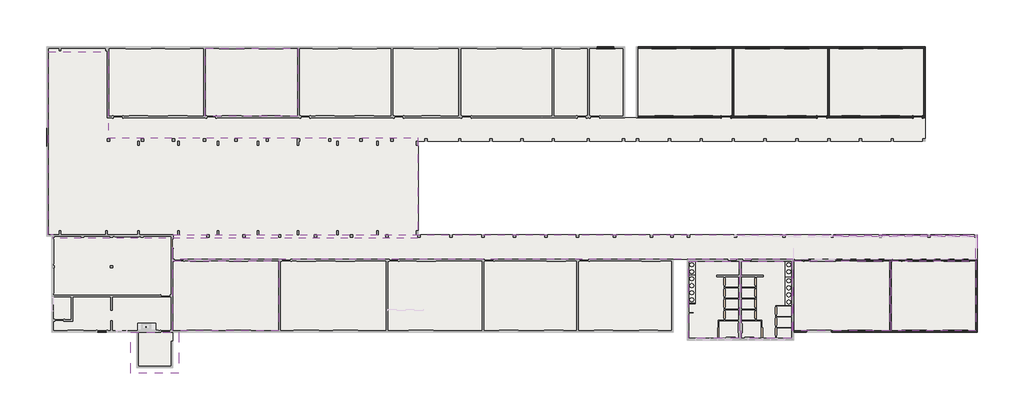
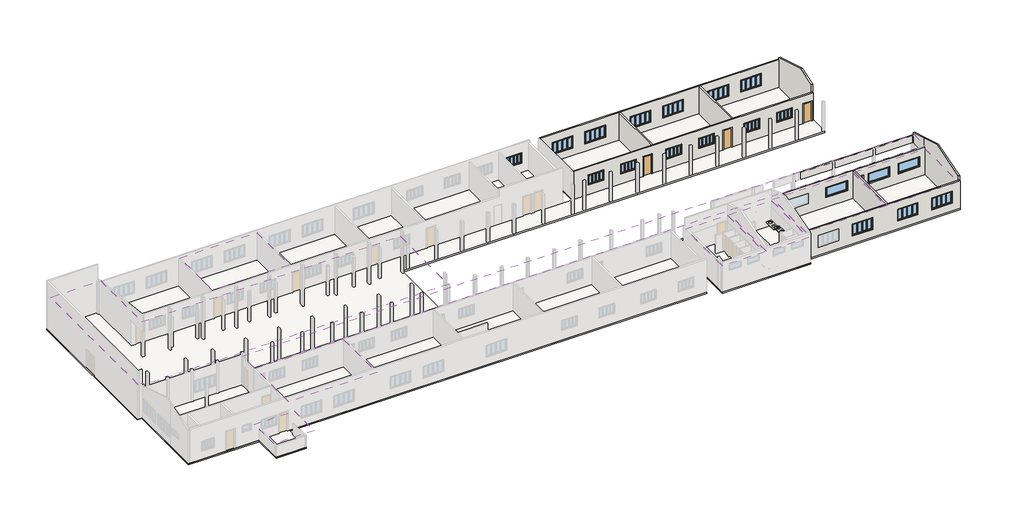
# One storey, part 4 of 5: 19 windows, 13 walls, 7 coverings, 6 slabs, 4 doors, 2 roofs.
"""IFC4 building model written with IfcOpenShell, lengths in millimetres."""

from ifc_helpers import new_model, si_unit, point, frame, frame_2d, origin, origin_with_axes, place, context, project, spatial, polyline, circle_curve, trimmed, segment, composite_curve, outline, extrude, faceted_brep, transform, mapped, element, save
from components import m_single_flush_0800_x_2100mm_0fb022da, casement_quad_w_trim_1500_x_1000_mm_8fcab8cd, casement_quad_w_trim_2000_x_1000_mm_c4cc244c, casement_quad_w_trim_2000_x_1000_mm_fe9ded81, transom_with_trim_2100_x_100mm_c4035aed

model = new_model("IFC4")

# Units and contexts
model_context = context("Model", 3, world=origin())
ifc_project = project(units=[si_unit("LENGTHUNIT", "METRE", prefix="MILLI")], contexts=[model_context])

# Site, building, storey
site = spatial("IfcSite", under=ifc_project)
building = spatial("IfcBuilding", under=site)
storey = spatial("IfcBuildingStorey", under=building, Name="Planta de implantação", Elevation=0.0)

# Coverings
placement = place(None, origin())
element("IfcCovering", 1, ObjectType="Plain", at=placement, inside=storey, context=model_context, shape_type="SweptSolid", body=[
    extrude(outline(polyline([(28214.7647365, -22768.3222718), (28214.7647365, -29368.3222718), (23909.7647365, -29368.3222718), (23909.7647365, -22768.3222718), (28214.7647365, -22768.3222718)])), frame((0.0, 0.0, 2700.0), z_axis=(0.0, 0.0, 1.0), x_axis=(1.0, 0.0, 0.0)), (0.0, 0.0, 1.0), 57.0),
])
element("IfcCovering", 2, ObjectType="Plain", at=placement, inside=storey, context=model_context, shape_type="SweptSolid", body=[
    extrude(outline(polyline([(23709.7647365, -29368.3222718), (19409.7647365, -29368.3222718), (19409.7647365, -22768.3222718), (23709.7647365, -22768.3222718), (23709.7647365, -29368.3222718)])), frame((0.0, 0.0, 2700.0), z_axis=(0.0, 0.0, 1.0), x_axis=(1.0, 0.0, 0.0)), (0.0, 0.0, 1.0), 57.0),
])
element("IfcCovering", 3, ObjectType="Plain", at=placement, inside=storey, context=model_context, shape_type="SweptSolid", body=[
    extrude(outline(polyline([(36564.7647365, -28698.3222718), (28354.7647365, -28698.3222718), (28354.7647365, -22748.3222718), (36564.7647365, -22748.3222718), (36564.7647365, -28698.3222718)])), frame((0.0, 0.0, 2800.0), z_axis=(0.0, 0.0, 1.0), x_axis=(1.0, 0.0, 0.0)), (0.0, 0.0, 1.0), 57.0),
])
element("IfcCovering", 4, ObjectType="Plain", at=placement, inside=storey, context=model_context, shape_type="SweptSolid", body=[
    extrude(outline(polyline([(43944.7647365, -22748.3222718), (43944.7647365, -28698.3222718), (36694.7647365, -28698.3222718), (36694.7647365, -22748.3222718), (43944.7647365, -22748.3222718)])), frame((0.0, 0.0, 2800.0), z_axis=(0.0, 0.0, 1.0), x_axis=(1.0, 0.0, 0.0)), (0.0, 0.0, 1.0), 57.0),
])
element("IfcCovering", 5, ObjectType="Plain", at=placement, inside=storey, context=model_context, shape_type="SweptSolid", body=[
    extrude(outline(polyline([(-21870.2352635, -10388.3222718), (-21870.2352635, -4588.3222718), (-13970.2352635, -4588.3222718), (-13970.2352635, -10388.3222718), (-21870.2352635, -10388.3222718)])), frame((0.0, 0.0, 3000.0), z_axis=(0.0, 0.0, 1.0), x_axis=(1.0, 0.0, 0.0)), (0.0, 0.0, 1.0), 57.0),
])
element("IfcCovering", 6, ObjectType="Plain", at=placement, inside=storey, context=model_context, shape_type="SweptSolid", body=[
    extrude(outline(polyline([(-15590.2352635, -22748.3222718), (-15590.2352635, -28698.3222718), (-24640.2352635, -28698.3222718), (-24640.2352635, -22748.3222718), (-15590.2352635, -22748.3222718)])), frame((0.0, 0.0, 3000.0), z_axis=(0.0, 0.0, 1.0), x_axis=(1.0, 0.0, 0.0)), (0.0, 0.0, 1.0), 57.0),
])
element("IfcCovering", 7, ObjectType="Plain", at=placement, inside=storey, context=model_context, shape_type="SweptSolid", body=[
    extrude(outline(polyline([(-24640.2352635, -20518.3222718), (44074.7647365, -20518.3222718), (44074.7647365, -22618.3222718), (-24640.2352635, -22618.3222718), (-24640.2352635, -20518.3222718)])), frame((0.0, 0.0, 3000.0), z_axis=(0.0, 0.0, 1.0), x_axis=(1.0, 0.0, 0.0)), (0.0, 0.0, 1.0), 57.0),
])

# Doors
m_single_flush_0800_x_2100mm_shape = m_single_flush_0800_x_2100mm_0fb022da(model_context)
element("IfcDoor", 8, ObjectType="M_Single-Flush : 0800 x 2100mm", at=placement, inside=storey, context=model_context, shape_type="MappedRepresentation", body=[
    mapped(m_single_flush_0800_x_2100mm_shape, transform((22609.7647365, -10453.3222718, 0.0), x_axis=(1.0, 0.0, 0.0), y_axis=(0.0, 1.0, 0.0), z_axis=(0.0, 0.0, 1.0))),
])
element("IfcDoor", 9, ObjectType="M_Single-Flush : 0800 x 2100mm", at=placement, inside=storey, context=model_context, shape_type="MappedRepresentation", body=[
    mapped(m_single_flush_0800_x_2100mm_shape, transform((30789.7647365, -10453.3222718, 0.0), x_axis=(1.0, 0.0, 0.0), y_axis=(0.0, 1.0, 0.0), z_axis=(0.0, 0.0, 1.0))),
])
element("IfcDoor", 10, ObjectType="M_Single-Flush : 0800 x 2100mm", at=placement, inside=storey, context=model_context, shape_type="MappedRepresentation", body=[
    mapped(m_single_flush_0800_x_2100mm_shape, transform((38969.7647365, -10453.3222718, 0.0), x_axis=(1.0, 0.0, 0.0), y_axis=(0.0, 1.0, 0.0), z_axis=(0.0, 0.0, 1.0))),
])
element("IfcDoor", 11, ObjectType="M_Single-Flush : 0800 x 2100mm", at=placement, inside=storey, context=model_context, shape_type="MappedRepresentation", body=[
    mapped(m_single_flush_0800_x_2100mm_shape, transform((37184.7647365, -22683.3222718, 0.0), x_axis=(-1.0, 0.0, 0.0), y_axis=(0.0, -1.0, 0.0), z_axis=(0.0, 0.0, 1.0))),
])

# Roofs
element("IfcRoof", 12, ObjectType="Generic - 125mm", at=placement, inside=storey, context=model_context, shape_type="SweptSolid", body=[
    extrude(outline(polyline([(-32358.3222718, 2043.2275334), (-28828.3222718, 3102.2275334), (-28828.3222718, 2971.723702), (-32358.3222718, 1912.723702), (-32358.3222718, 2043.2275334)])), frame((-28250.2352635, 0.0, 0.0), z_axis=(1.0, 0.0, 0.0), x_axis=(0.0, 1.0, 0.0)), (0.0, 0.0, 1.0), 4110.0),
])
element("IfcRoof", 13, ObjectType="Generic - 125mm", at=placement, inside=storey, context=model_context, shape_type="Brep", body=[
    faceted_brep([(-35310.2352635, -16518.3222718, 5016.0), (-35310.2352635, -4888.3222718, 3620.4), (-30160.2352635, -4888.3222718, 3620.4), (-30160.2352635, -12218.3222718, 4500.0), (-3718.5685969, -12218.3222718, 4500.0), (-3718.5685969, -16518.3222718, 5016.0), (-34850.2352635, -20518.3222718, 4536.0), (-35310.2352635, -20518.3222718, 4536.0), (-3718.5685969, -20818.3222718, 4500.0), (-34850.2352635, -20818.3222718, 4500.0), (-35310.2352635, -4888.3222718, 3746.2967831), (-35310.2352635, -16518.3222718, 5141.8967831), (-3718.5685969, -16518.3222718, 5141.8967831), (-3718.5685969, -12218.3222718, 4625.8967831), (-30160.2352635, -12218.3222718, 4625.8967831), (-30160.2352635, -4888.3222718, 3746.2967831), (-35310.2352635, -20518.3222718, 4661.8967831), (-34850.2352635, -20518.3222718, 4661.8967831), (-34850.2352635, -20818.3222718, 4625.8967831), (-3718.5685969, -20818.3222718, 4625.8967831)], [[[0, 1, 2, 3, 4, 5]], [[6, 7, 0, 5, 8, 9]], [[10, 11, 12, 13, 14, 15]], [[16, 17, 18, 19, 12, 11]], [[8, 19, 18, 9]], [[3, 14, 13, 4]], [[16, 11, 10, 1, 0, 7]], [[13, 12, 19, 8, 5, 4]], [[15, 14, 3, 2]], [[10, 15, 2, 1]], [[18, 17, 6, 9]], [[17, 16, 7, 6]]]),
])

# Slabs
element("IfcSlab", 14, ObjectType="Generic 150mm", at=placement, inside=storey, context=model_context, shape_type="SweptSolid", body=[
    extrude(outline(polyline([(-27750.2352635, -28828.3222718), (-34980.2352635, -28828.3222718), (-34980.2352635, -20518.3222718), (-35440.2352635, -20518.3222718), (-35440.2352635, -4458.3222718), (13949.7647365, -4458.3222718), (13949.7647365, -10518.3222718), (14929.7647365, -10518.3222718), (14929.7647365, -4458.3222718), (39599.7647365, -4458.3222718), (39599.7647365, -12518.3222718), (-3690.2352635, -12518.3222718), (-3690.2352635, -20518.3222718), (19409.7647365, -20518.3222718), (44074.7647365, -20518.3222718), (44074.7647365, -28828.3222718), (28364.7647365, -28828.3222718), (28364.7647365, -29518.3222718), (19279.7647365, -29518.3222718), (19279.7647365, -28828.3222718), (19279.7647365, -22618.3222718), (18079.7647365, -22618.3222718), (18079.7647365, -28828.3222718), (-24640.2352635, -28828.3222718), (-24640.2352635, -31858.3222718), (-27750.2352635, -31858.3222718), (-27750.2352635, -28828.3222718)])), frame((0.0, 0.0, -150.0), z_axis=(0.0, 0.0, 1.0), x_axis=(1.0, 0.0, 0.0)), (0.0, 0.0, 1.0), 150.0),
])
element("IfcSlab", 15, ObjectType="Generic 150mm", at=placement, inside=storey, context=model_context, shape_type="SweptSolid", body=[
    extrude(outline(polyline([(19409.7647365, -29368.3222718), (19409.7647365, -22768.3222718), (28214.7647365, -22768.3222718), (28214.7647365, -29368.3222718), (19409.7647365, -29368.3222718)])), frame((0.0, 0.0, -160.0), z_axis=(0.0, 0.0, 1.0), x_axis=(1.0, 0.0, 0.0)), (0.0, 0.0, 1.0), 150.0),
])
element("IfcSlab", 16, ObjectType="granito cinza", at=placement, inside=storey, context=model_context, shape_type="SweptSolid", body=[
    extrude(outline(polyline([(27664.7647365, -26558.3222718), (27664.7647365, -24158.3222718), (28214.7647365, -24158.3222718), (28214.7647365, -26558.3222718), (27664.7647365, -26558.3222718)]), holes=[composite_curve([segment(trimmed(circle_curve(frame_2d((27952.5026435, -25658.3222718)), 180.0), [point((27952.5026435, -25838.3222718))], [point((27952.5026435, -25478.3222718))], True, "CARTESIAN"), True, "CONTINUOUS"), segment(trimmed(circle_curve(frame_2d((27952.5026435, -25658.3222718)), 180.0), [point((27952.5026435, -25478.3222718))], [point((27952.5026435, -25838.3222718))], True, "CARTESIAN"), True, "CONTINUOUS")], self_intersect=False), composite_curve([segment(trimmed(circle_curve(frame_2d((27952.5026435, -25058.3222718)), 180.0), [point((27952.5026435, -25238.3222718))], [point((27952.5026435, -24878.3222718))], True, "CARTESIAN"), True, "CONTINUOUS"), segment(trimmed(circle_curve(frame_2d((27952.5026435, -25058.3222718)), 180.0), [point((27952.5026435, -24878.3222718))], [point((27952.5026435, -25238.3222718))], True, "CARTESIAN"), True, "CONTINUOUS")], self_intersect=False), composite_curve([segment(trimmed(circle_curve(frame_2d((27952.5026435, -24458.3222718)), 175.0), [point((27952.5026435, -24633.3222718))], [point((27952.5026435, -24283.3222718))], True, "CARTESIAN"), True, "CONTINUOUS"), segment(trimmed(circle_curve(frame_2d((27952.5026435, -24458.3222718)), 175.0), [point((27952.5026435, -24283.3222718))], [point((27952.5026435, -24633.3222718))], True, "CARTESIAN"), True, "CONTINUOUS")], self_intersect=False), composite_curve([segment(trimmed(circle_curve(frame_2d((27952.5731958, -26258.3222718)), 175.0), [point((27952.5731958, -26433.3222718))], [point((27952.5731958, -26083.3222718))], True, "CARTESIAN"), True, "CONTINUOUS"), segment(trimmed(circle_curve(frame_2d((27952.5731958, -26258.3222718)), 175.0), [point((27952.5731958, -26083.3222718))], [point((27952.5731958, -26433.3222718))], True, "CARTESIAN"), True, "CONTINUOUS")], self_intersect=False)]), frame((0.0, 0.0, 830.0), z_axis=(0.0, 0.0, 1.0), x_axis=(1.0, 0.0, 0.0)), (0.0, 0.0, 1.0), 30.0),
])
element("IfcSlab", 17, ObjectType="granito cinza", at=placement, inside=storey, context=model_context, shape_type="SweptSolid", body=[
    extrude(outline(polyline([(27664.7647365, -22768.3222718), (28214.7647365, -22768.3222718), (28214.7647365, -24158.3222718), (27664.7647365, -24158.3222718), (27664.7647365, -22768.3222718)]), holes=[composite_curve([segment(trimmed(circle_curve(frame_2d((27944.7647365, -23068.3222718)), 175.0), [point((27769.7647365, -23068.3222718))], [point((28119.7647365, -23068.3222718))], True, "CARTESIAN"), True, "CONTINUOUS"), segment(trimmed(circle_curve(frame_2d((27944.7647365, -23068.3222718)), 175.0), [point((28119.7647365, -23068.3222718))], [point((27769.7647365, -23068.3222718))], True, "CARTESIAN"), True, "CONTINUOUS")], self_intersect=False), composite_curve([segment(trimmed(circle_curve(frame_2d((27944.7647365, -23668.3222718)), 175.0), [point((27769.7647365, -23668.3222718))], [point((28119.7647365, -23668.3222718))], True, "CARTESIAN"), True, "CONTINUOUS"), segment(trimmed(circle_curve(frame_2d((27944.7647365, -23668.3222718)), 175.0), [point((28119.7647365, -23668.3222718))], [point((27769.7647365, -23668.3222718))], True, "CARTESIAN"), True, "CONTINUOUS")], self_intersect=False)]), frame((0.0, 0.0, 570.0), z_axis=(0.0, 0.0, 1.0), x_axis=(1.0, 0.0, 0.0)), (0.0, 0.0, 1.0), 30.0),
])
element("IfcSlab", 18, ObjectType="granito cinza", at=placement, inside=storey, context=model_context, shape_type="SweptSolid", body=[
    extrude(outline(polyline([(19959.7647365, -26358.3222718), (19409.7647365, -26358.3222718), (19409.7647365, -23958.3222718), (19959.7647365, -23958.3222718), (19959.7647365, -26358.3222718)]), holes=[composite_curve([segment(trimmed(circle_curve(frame_2d((19672.0268295, -25458.3222718)), 180.0), [point((19492.0268295, -25458.3222718))], [point((19852.0268295, -25458.3222718))], True, "CARTESIAN"), True, "CONTINUOUS"), segment(trimmed(circle_curve(frame_2d((19672.0268295, -25458.3222718)), 180.0), [point((19852.0268295, -25458.3222718))], [point((19492.0268295, -25458.3222718))], True, "CARTESIAN"), True, "CONTINUOUS")], self_intersect=False), composite_curve([segment(trimmed(circle_curve(frame_2d((19672.0268295, -24858.3222718)), 180.0), [point((19492.0268295, -24858.3222718))], [point((19852.0268295, -24858.3222718))], True, "CARTESIAN"), True, "CONTINUOUS"), segment(trimmed(circle_curve(frame_2d((19672.0268295, -24858.3222718)), 180.0), [point((19852.0268295, -24858.3222718))], [point((19492.0268295, -24858.3222718))], True, "CARTESIAN"), True, "CONTINUOUS")], self_intersect=False), composite_curve([segment(trimmed(circle_curve(frame_2d((19672.0268295, -24258.3222718)), 175.0), [point((19497.0268295, -24258.3222718))], [point((19847.0268295, -24258.3222718))], True, "CARTESIAN"), True, "CONTINUOUS"), segment(trimmed(circle_curve(frame_2d((19672.0268295, -24258.3222718)), 175.0), [point((19847.0268295, -24258.3222718))], [point((19497.0268295, -24258.3222718))], True, "CARTESIAN"), True, "CONTINUOUS")], self_intersect=False), composite_curve([segment(trimmed(circle_curve(frame_2d((19671.9562771, -26058.3222718)), 175.0), [point((19496.9562771, -26058.3222718))], [point((19846.9562771, -26058.3222718))], True, "CARTESIAN"), True, "CONTINUOUS"), segment(trimmed(circle_curve(frame_2d((19671.9562771, -26058.3222718)), 175.0), [point((19846.9562771, -26058.3222718))], [point((19496.9562771, -26058.3222718))], True, "CARTESIAN"), True, "CONTINUOUS")], self_intersect=False)]), frame((0.0, 0.0, 800.0), z_axis=(0.0, 0.0, 1.0), x_axis=(1.0, 0.0, 0.0)), (0.0, 0.0, 1.0), 30.0),
])
element("IfcSlab", 19, ObjectType="granito cinza", at=placement, inside=storey, context=model_context, shape_type="SweptSolid", body=[
    extrude(outline(polyline([(19959.7647365, -22768.3222718), (19959.7647365, -23958.3222718), (19409.7647365, -23958.3222718), (19409.7647365, -22768.3222718), (19959.7647365, -22768.3222718)]), holes=[composite_curve([segment(trimmed(circle_curve(frame_2d((19679.7647365, -23068.3222718)), 175.0), [point((19679.7647365, -23243.3222718))], [point((19679.7647365, -22893.3222718))], True, "CARTESIAN"), True, "CONTINUOUS"), segment(trimmed(circle_curve(frame_2d((19679.7647365, -23068.3222718)), 175.0), [point((19679.7647365, -22893.3222718))], [point((19679.7647365, -23243.3222718))], True, "CARTESIAN"), True, "CONTINUOUS")], self_intersect=False), composite_curve([segment(trimmed(circle_curve(frame_2d((19679.7647365, -23668.3222718)), 175.0), [point((19679.7647365, -23843.3222718))], [point((19679.7647365, -23493.3222718))], True, "CARTESIAN"), True, "CONTINUOUS"), segment(trimmed(circle_curve(frame_2d((19679.7647365, -23668.3222718)), 175.0), [point((19679.7647365, -23493.3222718))], [point((19679.7647365, -23843.3222718))], True, "CARTESIAN"), True, "CONTINUOUS")], self_intersect=False)]), frame((0.0, 0.0, 570.0), z_axis=(0.0, 0.0, 1.0), x_axis=(1.0, 0.0, 0.0)), (0.0, 0.0, 1.0), 30.0),
])

# Walls
element("IfcWall", 20, ObjectType="Generic - 130mm", at=placement, inside=storey, context=model_context, shape_type="Brep", body=[
    faceted_brep([(15059.7647365, -4588.3222718, 0.0), (23109.7647365, -4588.3222718, 0.0), (23239.7647365, -4588.3222718, 0.0), (31289.7647365, -4588.3222718, 0.0), (31419.7647365, -4588.3222718, 0.0), (39469.7647365, -4588.3222718, 0.0), (39599.7647365, -4588.3222718, 0.0), (39599.7647365, -4588.3222718, 3000.0), (31419.7647365, -4588.3222718, 3000.0), (31289.7647365, -4588.3222718, 3000.0), (23239.7647365, -4588.3222718, 3000.0), (23109.7647365, -4588.3222718, 3000.0), (15059.7647365, -4588.3222718, 3000.0), (35619.7647365, -4588.3222718, 2100.0), (37619.7647365, -4588.3222718, 2100.0), (37619.7647365, -4588.3222718, 900.0), (35619.7647365, -4588.3222718, 900.0), (32269.7647365, -4588.3222718, 2100.0), (34269.7647365, -4588.3222718, 2100.0), (34269.7647365, -4588.3222718, 900.0), (32269.7647365, -4588.3222718, 900.0), (27639.7647365, -4588.3222718, 2100.0), (29639.7647365, -4588.3222718, 2100.0), (29639.7647365, -4588.3222718, 900.0), (27639.7647365, -4588.3222718, 900.0), (24289.7647365, -4588.3222718, 2100.0), (26289.7647365, -4588.3222718, 2100.0), (26289.7647365, -4588.3222718, 900.0), (24289.7647365, -4588.3222718, 900.0), (19659.7647365, -4588.3222718, 2100.0), (21659.7647365, -4588.3222718, 2100.0), (21659.7647365, -4588.3222718, 900.0), (19659.7647365, -4588.3222718, 900.0), (16309.7647365, -4588.3222718, 2100.0), (18309.7647365, -4588.3222718, 2100.0), (18309.7647365, -4588.3222718, 900.0), (16309.7647365, -4588.3222718, 900.0), (15059.7647365, -4458.3222718, 0.0), (15059.7647365, -4458.3222718, 3000.0), (39599.7647365, -4458.3222718, 3000.0), (39599.7647365, -4458.3222718, 0.0), (35619.7647365, -4458.3222718, 2100.0), (35619.7647365, -4458.3222718, 900.0), (37619.7647365, -4458.3222718, 900.0), (37619.7647365, -4458.3222718, 2100.0), (32269.7647365, -4458.3222718, 2100.0), (32269.7647365, -4458.3222718, 900.0), (34269.7647365, -4458.3222718, 900.0), (34269.7647365, -4458.3222718, 2100.0), (27639.7647365, -4458.3222718, 2100.0), (27639.7647365, -4458.3222718, 900.0), (29639.7647365, -4458.3222718, 900.0), (29639.7647365, -4458.3222718, 2100.0), (24289.7647365, -4458.3222718, 2100.0), (24289.7647365, -4458.3222718, 900.0), (26289.7647365, -4458.3222718, 900.0), (26289.7647365, -4458.3222718, 2100.0), (19659.7647365, -4458.3222718, 2100.0), (19659.7647365, -4458.3222718, 900.0), (21659.7647365, -4458.3222718, 900.0), (21659.7647365, -4458.3222718, 2100.0), (16309.7647365, -4458.3222718, 2100.0), (16309.7647365, -4458.3222718, 900.0), (18309.7647365, -4458.3222718, 900.0), (18309.7647365, -4458.3222718, 2100.0)], [[[0, 1, 2, 3, 4, 5, 6, 7, 8, 9, 10, 11, 12], [13, 14, 15, 16], [17, 18, 19, 20], [21, 22, 23, 24], [25, 26, 27, 28], [29, 30, 31, 32], [33, 34, 35, 36]], [[37, 38, 39, 40], [41, 42, 43, 44], [45, 46, 47, 48], [49, 50, 51, 52], [53, 54, 55, 56], [57, 58, 59, 60], [61, 62, 63, 64]], [[6, 5, 4, 3, 2, 1, 0, 37, 40]], [[12, 11, 10, 9, 8, 7, 39, 38]], [[0, 12, 38, 37]], [[7, 6, 40, 39]], [[42, 41, 13, 16]], [[43, 42, 16, 15]], [[44, 43, 15, 14]], [[41, 44, 14, 13]], [[46, 45, 17, 20]], [[47, 46, 20, 19]], [[48, 47, 19, 18]], [[45, 48, 18, 17]], [[50, 49, 21, 24]], [[51, 50, 24, 23]], [[52, 51, 23, 22]], [[49, 52, 22, 21]], [[54, 53, 25, 28]], [[55, 54, 28, 27]], [[56, 55, 27, 26]], [[53, 56, 26, 25]], [[58, 57, 29, 32]], [[59, 58, 32, 31]], [[60, 59, 31, 30]], [[57, 60, 30, 29]], [[62, 61, 33, 36]], [[63, 62, 36, 35]], [[64, 63, 35, 34]], [[61, 64, 34, 33]]]),
])
element("IfcWall", 21, ObjectType="Generic - 130mm", at=placement, inside=storey, context=model_context, shape_type="Brep", body=[
    faceted_brep([(39599.7647365, -10518.3222718, 3000.0), (15059.7647365, -10518.3222718, 3000.0), (15059.7647365, -10518.3222718, 0.0), (22209.7647365, -10518.3222718, 0.0), (22209.7647365, -10518.3222718, 2100.0), (23009.7647365, -10518.3222718, 2100.0), (23009.7647365, -10518.3222718, 0.0), (30389.7647365, -10518.3222718, 0.0), (30389.7647365, -10518.3222718, 2100.0), (31189.7647365, -10518.3222718, 2100.0), (31189.7647365, -10518.3222718, 0.0), (38569.7647365, -10518.3222718, 0.0), (38569.7647365, -10518.3222718, 2100.0), (39369.7647365, -10518.3222718, 2100.0), (39369.7647365, -10518.3222718, 0.0), (39599.7647365, -10518.3222718, 0.0), (32519.7647365, -10518.3222718, 2100.0), (34019.7647365, -10518.3222718, 2100.0), (34019.7647365, -10518.3222718, 1100.0), (32519.7647365, -10518.3222718, 1100.0), (37369.7647365, -10518.3222718, 2100.0), (37369.7647365, -10518.3222718, 1100.0), (35869.7647365, -10518.3222718, 1100.0), (35869.7647365, -10518.3222718, 2100.0), (24539.7647365, -10518.3222718, 2100.0), (26039.7647365, -10518.3222718, 2100.0), (26039.7647365, -10518.3222718, 1100.0), (24539.7647365, -10518.3222718, 1100.0), (29389.7647365, -10518.3222718, 2100.0), (29389.7647365, -10518.3222718, 1100.0), (27889.7647365, -10518.3222718, 1100.0), (27889.7647365, -10518.3222718, 2100.0), (16559.7647365, -10518.3222718, 2100.0), (18059.7647365, -10518.3222718, 2100.0), (18059.7647365, -10518.3222718, 1100.0), (16559.7647365, -10518.3222718, 1100.0), (21409.7647365, -10518.3222718, 2100.0), (21409.7647365, -10518.3222718, 1100.0), (19909.7647365, -10518.3222718, 1100.0), (19909.7647365, -10518.3222718, 2100.0), (15059.7647365, -10388.3222718, 3000.0), (23109.7647365, -10388.3222718, 3000.0), (23239.7647365, -10388.3222718, 3000.0), (31289.7647365, -10388.3222718, 3000.0), (31419.7647365, -10388.3222718, 3000.0), (39599.7647365, -10388.3222718, 3000.0), (39599.7647365, -10388.3222718, 0.0), (39469.7647365, -10388.3222718, 0.0), (39369.7647365, -10388.3222718, 0.0), (39369.7647365, -10388.3222718, 2100.0), (38569.7647365, -10388.3222718, 2100.0), (38569.7647365, -10388.3222718, 0.0), (31419.7647365, -10388.3222718, 0.0), (31289.7647365, -10388.3222718, 0.0), (31189.7647365, -10388.3222718, 0.0), (31189.7647365, -10388.3222718, 2100.0), (30389.7647365, -10388.3222718, 2100.0), (30389.7647365, -10388.3222718, 0.0), (23239.7647365, -10388.3222718, 0.0), (23109.7647365, -10388.3222718, 0.0), (23009.7647365, -10388.3222718, 0.0), (23009.7647365, -10388.3222718, 2100.0), (22209.7647365, -10388.3222718, 2100.0), (22209.7647365, -10388.3222718, 0.0), (15059.7647365, -10388.3222718, 0.0), (32519.7647365, -10388.3222718, 2100.0), (32519.7647365, -10388.3222718, 1100.0), (34019.7647365, -10388.3222718, 1100.0), (34019.7647365, -10388.3222718, 2100.0), (37369.7647365, -10388.3222718, 2100.0), (35869.7647365, -10388.3222718, 2100.0), (35869.7647365, -10388.3222718, 1100.0), (37369.7647365, -10388.3222718, 1100.0), (24539.7647365, -10388.3222718, 2100.0), (24539.7647365, -10388.3222718, 1100.0), (26039.7647365, -10388.3222718, 1100.0), (26039.7647365, -10388.3222718, 2100.0), (29389.7647365, -10388.3222718, 2100.0), (27889.7647365, -10388.3222718, 2100.0), (27889.7647365, -10388.3222718, 1100.0), (29389.7647365, -10388.3222718, 1100.0), (16559.7647365, -10388.3222718, 2100.0), (16559.7647365, -10388.3222718, 1100.0), (18059.7647365, -10388.3222718, 1100.0), (18059.7647365, -10388.3222718, 2100.0), (21409.7647365, -10388.3222718, 2100.0), (19909.7647365, -10388.3222718, 2100.0), (19909.7647365, -10388.3222718, 1100.0), (21409.7647365, -10388.3222718, 1100.0)], [[[0, 1, 2, 3, 4, 5, 6, 7, 8, 9, 10, 11, 12, 13, 14, 15], [16, 17, 18, 19], [20, 21, 22, 23], [24, 25, 26, 27], [28, 29, 30, 31], [32, 33, 34, 35], [36, 37, 38, 39]], [[40, 41, 42, 43, 44, 45, 46, 47, 48, 49, 50, 51, 52, 53, 54, 55, 56, 57, 58, 59, 60, 61, 62, 63, 64], [65, 66, 67, 68], [69, 70, 71, 72], [73, 74, 75, 76], [77, 78, 79, 80], [81, 82, 83, 84], [85, 86, 87, 88]], [[2, 64, 63, 3]], [[6, 60, 59, 58, 57, 7]], [[10, 54, 53, 52, 51, 11]], [[46, 15, 14, 48, 47]], [[1, 0, 45, 44, 43, 42, 41, 40]], [[2, 1, 40, 64]], [[61, 60, 6, 5]], [[62, 61, 5, 4]], [[63, 62, 4, 3]], [[55, 54, 10, 9]], [[56, 55, 9, 8]], [[57, 56, 8, 7]], [[0, 15, 46, 45]], [[13, 49, 48, 14]], [[49, 13, 12, 50]], [[50, 12, 11, 51]], [[66, 65, 16, 19]], [[67, 66, 19, 18]], [[68, 67, 18, 17]], [[65, 68, 17, 16]], [[21, 20, 69, 72]], [[22, 21, 72, 71]], [[23, 22, 71, 70]], [[20, 23, 70, 69]], [[74, 73, 24, 27]], [[75, 74, 27, 26]], [[76, 75, 26, 25]], [[73, 76, 25, 24]], [[29, 28, 77, 80]], [[30, 29, 80, 79]], [[31, 30, 79, 78]], [[28, 31, 78, 77]], [[82, 81, 32, 35]], [[83, 82, 35, 34]], [[84, 83, 34, 33]], [[81, 84, 33, 32]], [[37, 36, 85, 88]], [[38, 37, 88, 87]], [[39, 38, 87, 86]], [[36, 39, 86, 85]]]),
])
element("IfcWall", 22, ObjectType="Generic - 130mm", at=placement, inside=storey, context=model_context, shape_type="SweptSolid", body=[
    extrude(outline(polyline([(23109.7647365, -10388.3222718), (23109.7647365, -4588.3222718), (23239.7647365, -4588.3222718), (23239.7647365, -10388.3222718), (23109.7647365, -10388.3222718)])), origin_with_axes(), (0.0, 0.0, 1.0), 3000.0),
])
element("IfcWall", 23, ObjectType="Generic - 130mm", at=placement, inside=storey, context=model_context, shape_type="SweptSolid", body=[
    extrude(outline(polyline([(31289.7647365, -10388.3222718), (31289.7647365, -4588.3222718), (31419.7647365, -4588.3222718), (31419.7647365, -10388.3222718), (31289.7647365, -10388.3222718)])), origin_with_axes(), (0.0, 0.0, 1.0), 3000.0),
])
element("IfcWall", 24, ObjectType="Generic - 130mm", at=placement, inside=storey, context=model_context, shape_type="Brep", body=[
    faceted_brep([(39469.7647365, -4588.3222718, 0.0), (39469.7647365, -10388.3222718, 0.0), (39469.7647365, -10388.3222718, 3819.0), (39469.7647365, -8488.3222718, 4389.0), (39469.7647365, -4588.3222718, 3219.0), (39599.7647365, -4588.3222718, 0.0), (39599.7647365, -4588.3222718, 3000.0), (39599.7647365, -4588.3222718, 3219.0), (39599.7647365, -8488.3222718, 4389.0), (39599.7647365, -10388.3222718, 3819.0), (39599.7647365, -10388.3222718, 3000.0), (39599.7647365, -10388.3222718, 0.0)], [[[0, 1, 2, 3, 4]], [[5, 6, 7, 8, 9, 10, 11]], [[1, 0, 5, 11]], [[0, 4, 7, 6, 5]], [[2, 1, 11, 10, 9]], [[4, 3, 8, 7]], [[3, 2, 9, 8]]]),
])
element("IfcWall", 25, ObjectType="Generic - 130mm", at=placement, inside=storey, context=model_context, shape_type="Brep", body=[
    faceted_brep([(28364.7647365, -28828.3222718, 0.0), (44074.7647365, -28828.3222718, 0.0), (44074.7647365, -28828.3222718, 3000.0), (28364.7647365, -28828.3222718, 3000.0), (33039.7647365, -28828.3222718, 900.0), (33039.7647365, -28828.3222718, 2100.0), (35039.7647365, -28828.3222718, 2100.0), (35039.7647365, -28828.3222718, 900.0), (29539.7647365, -28828.3222718, 900.0), (29539.7647365, -28828.3222718, 2100.0), (31539.7647365, -28828.3222718, 2100.0), (31539.7647365, -28828.3222718, 900.0), (41169.7647365, -28828.3222718, 900.0), (41169.7647365, -28828.3222718, 2100.0), (43169.7647365, -28828.3222718, 2100.0), (43169.7647365, -28828.3222718, 900.0), (37669.7647365, -28828.3222718, 900.0), (37669.7647365, -28828.3222718, 2100.0), (39669.7647365, -28828.3222718, 2100.0), (39669.7647365, -28828.3222718, 900.0), (44074.7647365, -28698.3222718, 0.0), (43944.7647365, -28698.3222718, 0.0), (36694.7647365, -28698.3222718, 0.0), (36564.7647365, -28698.3222718, 0.0), (28364.7647365, -28698.3222718, 0.0), (28364.7647365, -28698.3222718, 3000.0), (36564.7647365, -28698.3222718, 3000.0), (36694.7647365, -28698.3222718, 3000.0), (44074.7647365, -28698.3222718, 3000.0), (33039.7647365, -28698.3222718, 2100.0), (33039.7647365, -28698.3222718, 900.0), (35039.7647365, -28698.3222718, 900.0), (35039.7647365, -28698.3222718, 2100.0), (29539.7647365, -28698.3222718, 2100.0), (29539.7647365, -28698.3222718, 900.0), (31539.7647365, -28698.3222718, 900.0), (31539.7647365, -28698.3222718, 2100.0), (41169.7647365, -28698.3222718, 2100.0), (41169.7647365, -28698.3222718, 900.0), (43169.7647365, -28698.3222718, 900.0), (43169.7647365, -28698.3222718, 2100.0), (37669.7647365, -28698.3222718, 2100.0), (37669.7647365, -28698.3222718, 900.0), (39669.7647365, -28698.3222718, 900.0), (39669.7647365, -28698.3222718, 2100.0)], [[[0, 1, 2, 3], [4, 5, 6, 7], [8, 9, 10, 11], [12, 13, 14, 15], [16, 17, 18, 19]], [[20, 21, 22, 23, 24, 25, 26, 27, 28], [29, 30, 31, 32], [33, 34, 35, 36], [37, 38, 39, 40], [41, 42, 43, 44]], [[1, 0, 24, 23, 22, 21, 20]], [[3, 2, 28, 27, 26, 25]], [[2, 1, 20, 28]], [[0, 3, 25, 24]], [[29, 5, 4, 30]], [[30, 4, 7, 31]], [[31, 7, 6, 32]], [[5, 29, 32, 6]], [[33, 9, 8, 34]], [[34, 8, 11, 35]], [[35, 11, 10, 36]], [[9, 33, 36, 10]], [[37, 13, 12, 38]], [[38, 12, 15, 39]], [[39, 15, 14, 40]], [[13, 37, 40, 14]], [[41, 17, 16, 42]], [[42, 16, 19, 43]], [[43, 19, 18, 44]], [[17, 41, 44, 18]]]),
])
element("IfcWall", 26, ObjectType="Generic - 130mm", at=placement, inside=storey, context=model_context, shape_type="SweptSolid", body=[
    extrude(outline(polyline([(36694.7647365, -22748.3222718), (36694.7647365, -28698.3222718), (36564.7647365, -28698.3222718), (36564.7647365, -22748.3222718), (36694.7647365, -22748.3222718)])), origin_with_axes(), (0.0, 0.0, 1.0), 3000.0),
])
element("IfcWall", 27, ObjectType="Generic - 130mm", at=placement, inside=storey, context=model_context, shape_type="Brep", body=[
    faceted_brep([(28364.7647365, -22618.3222718, 3000.0), (43944.7647365, -22618.3222718, 3000.0), (43944.7647365, -22618.3222718, 0.0), (37584.7647365, -22618.3222718, 0.0), (37584.7647365, -22618.3222718, 2100.0), (36784.7647365, -22618.3222718, 2100.0), (36784.7647365, -22618.3222718, 0.0), (29214.7647365, -22618.3222718, 0.0), (29214.7647365, -22618.3222718, 2100.0), (28414.7647365, -22618.3222718, 2100.0), (28414.7647365, -22618.3222718, 0.0), (28364.7647365, -22618.3222718, 0.0), (33864.7647365, -22618.3222718, 2100.0), (33864.7647365, -22618.3222718, 1100.0), (35964.7647365, -22618.3222718, 1100.0), (35964.7647365, -22618.3222718, 2100.0), (29814.7647365, -22618.3222718, 2100.0), (29814.7647365, -22618.3222718, 1100.0), (31914.7647365, -22618.3222718, 1100.0), (31914.7647365, -22618.3222718, 2100.0), (41244.7647365, -22618.3222718, 2100.0), (41244.7647365, -22618.3222718, 1100.0), (43344.7647365, -22618.3222718, 1100.0), (43344.7647365, -22618.3222718, 2100.0), (38184.7647365, -22618.3222718, 2100.0), (38184.7647365, -22618.3222718, 1100.0), (40284.7647365, -22618.3222718, 1100.0), (40284.7647365, -22618.3222718, 2100.0), (43944.7647365, -22748.3222718, 3000.0), (36694.7647365, -22748.3222718, 3000.0), (36564.7647365, -22748.3222718, 3000.0), (28364.7647365, -22748.3222718, 3000.0), (28364.7647365, -22748.3222718, 0.0), (28414.7647365, -22748.3222718, 0.0), (28414.7647365, -22748.3222718, 2100.0), (29214.7647365, -22748.3222718, 2100.0), (29214.7647365, -22748.3222718, 0.0), (36564.7647365, -22748.3222718, 0.0), (36694.7647365, -22748.3222718, 0.0), (36784.7647365, -22748.3222718, 0.0), (36784.7647365, -22748.3222718, 2100.0), (37584.7647365, -22748.3222718, 2100.0), (37584.7647365, -22748.3222718, 0.0), (43944.7647365, -22748.3222718, 0.0), (33864.7647365, -22748.3222718, 1100.0), (33864.7647365, -22748.3222718, 2100.0), (35964.7647365, -22748.3222718, 2100.0), (35964.7647365, -22748.3222718, 1100.0), (29814.7647365, -22748.3222718, 1100.0), (29814.7647365, -22748.3222718, 2100.0), (31914.7647365, -22748.3222718, 2100.0), (31914.7647365, -22748.3222718, 1100.0), (41244.7647365, -22748.3222718, 1100.0), (41244.7647365, -22748.3222718, 2100.0), (43344.7647365, -22748.3222718, 2100.0), (43344.7647365, -22748.3222718, 1100.0), (38184.7647365, -22748.3222718, 1100.0), (38184.7647365, -22748.3222718, 2100.0), (40284.7647365, -22748.3222718, 2100.0), (40284.7647365, -22748.3222718, 1100.0)], [[[0, 1, 2, 3, 4, 5, 6, 7, 8, 9, 10, 11], [12, 13, 14, 15], [16, 17, 18, 19], [20, 21, 22, 23], [24, 25, 26, 27]], [[28, 29, 30, 31, 32, 33, 34, 35, 36, 37, 38, 39, 40, 41, 42, 43], [44, 45, 46, 47], [48, 49, 50, 51], [52, 53, 54, 55], [56, 57, 58, 59]], [[2, 43, 42, 3]], [[33, 32, 11, 10]], [[39, 38, 37, 36, 7, 6]], [[1, 0, 31, 30, 29, 28]], [[1, 28, 43, 2]], [[11, 32, 31, 0]], [[5, 40, 39, 6]], [[40, 5, 4, 41]], [[41, 4, 3, 42]], [[9, 34, 33, 10]], [[34, 9, 8, 35]], [[35, 8, 7, 36]], [[12, 45, 44, 13]], [[13, 44, 47, 14]], [[14, 47, 46, 15]], [[45, 12, 15, 46]], [[16, 49, 48, 17]], [[17, 48, 51, 18]], [[18, 51, 50, 19]], [[49, 16, 19, 50]], [[20, 53, 52, 21]], [[21, 52, 55, 22]], [[22, 55, 54, 23]], [[53, 20, 23, 54]], [[24, 57, 56, 25]], [[25, 56, 59, 26]], [[26, 59, 58, 27]], [[57, 24, 27, 58]]]),
])
element("IfcWall", 28, ObjectType="Generic - 130mm", at=placement, inside=storey, context=model_context, shape_type="Brep", body=[
    faceted_brep([(44074.7647365, -28698.3222718, 0.0), (44074.7647365, -22618.3222718, 0.0), (44074.7647365, -22618.3222718, 3870.0), (44074.7647365, -24948.3222718, 4569.0), (44074.7647365, -28698.3222718, 3444.0), (44074.7647365, -28698.3222718, 3000.0), (43944.7647365, -28698.3222718, 0.0), (43944.7647365, -28698.3222718, 3444.0), (43944.7647365, -24948.3222718, 4569.0), (43944.7647365, -22618.3222718, 3870.0), (43944.7647365, -22618.3222718, 3000.0), (43944.7647365, -22618.3222718, 0.0), (43944.7647365, -22748.3222718, 0.0)], [[[0, 1, 2, 3, 4, 5]], [[6, 7, 8, 9, 10, 11, 12]], [[1, 0, 6, 12, 11]], [[0, 5, 4, 7, 6]], [[1, 11, 10, 9, 2]], [[4, 3, 8, 7]], [[3, 2, 9, 8]]]),
])
element("IfcWall", 29, ObjectType="Generic - 130mm", at=placement, inside=storey, context=model_context, shape_type="SweptSolid", body=[
    extrude(outline(polyline([(-22618.3222718, 2250.0), (-22618.3222718, 3870.0), (-20718.3222718, 3300.0), (-20718.3222718, 2250.0), (-22618.3222718, 2250.0)])), frame((43944.7647365, 0.0, 0.0), z_axis=(1.0, 0.0, 0.0), x_axis=(0.0, 1.0, 0.0)), (0.0, 0.0, 1.0), 130.0),
])
element("IfcWall", 30, ObjectType="Generic - 130mm", at=placement, inside=storey, context=model_context, shape_type="SweptSolid", body=[
    extrude(outline(polyline([(40027.2647365, -20553.3222718), (43854.7647365, -20553.3222718), (43854.7647365, -20683.3222718), (40027.2647365, -20683.3222718), (40027.2647365, -20553.3222718)])), frame((0.0, 0.0, 2250.0), z_axis=(0.0, 0.0, 1.0), x_axis=(1.0, 0.0, 0.0)), (0.0, 0.0, 1.0), 750.0),
])
element("IfcWall", 31, ObjectType="Generic - 130mm", at=placement, inside=storey, context=model_context, shape_type="SweptSolid", body=[
    extrude(outline(polyline([(35899.7647365, -20553.3222718), (39827.2647365, -20553.3222718), (39827.2647365, -20683.3222718), (35899.7647365, -20683.3222718), (35899.7647365, -20553.3222718)])), frame((0.0, 0.0, 2250.0), z_axis=(0.0, 0.0, 1.0), x_axis=(1.0, 0.0, 0.0)), (0.0, 0.0, 1.0), 750.0),
])
element("IfcWall", 32, ObjectType="Generic - 130mm", at=placement, inside=storey, context=model_context, shape_type="SweptSolid", body=[
    extrude(outline(polyline([(31772.2647365, -20553.3222718), (35699.7647365, -20553.3222718), (35699.7647365, -20683.3222718), (31772.2647365, -20683.3222718), (31772.2647365, -20553.3222718)])), frame((0.0, 0.0, 2250.0), z_axis=(0.0, 0.0, 1.0), x_axis=(1.0, 0.0, 0.0)), (0.0, 0.0, 1.0), 750.0),
])

# Windows
casement_quad_w_trim_1500_x_1000_mm_shape = casement_quad_w_trim_1500_x_1000_mm_8fcab8cd(model_context)
element("IfcWindow", 33, ObjectType="Casement-Quad w Trim : 1500 x 1000 mm", at=placement, inside=storey, context=model_context, shape_type="MappedRepresentation", body=[
    mapped(casement_quad_w_trim_1500_x_1000_mm_shape, transform((20659.7647365, -10472.3722718, 185.6), x_axis=(1.0, 0.0, 0.0), y_axis=(0.0, 1.0, 0.0), z_axis=(0.0, 0.0, 1.0))),
])
element("IfcWindow", 34, ObjectType="Casement-Quad w Trim : 1500 x 1000 mm", at=placement, inside=storey, context=model_context, shape_type="MappedRepresentation", body=[
    mapped(casement_quad_w_trim_1500_x_1000_mm_shape, transform((17309.7647365, -10434.2722718, 185.6), x_axis=(-1.0, 0.0, 0.0), y_axis=(0.0, -1.0, 0.0), z_axis=(0.0, 0.0, 1.0))),
])
element("IfcWindow", 35, ObjectType="Casement-Quad w Trim : 1500 x 1000 mm", at=placement, inside=storey, context=model_context, shape_type="MappedRepresentation", body=[
    mapped(casement_quad_w_trim_1500_x_1000_mm_shape, transform((28639.7647365, -10472.3722718, 185.6), x_axis=(1.0, 0.0, 0.0), y_axis=(0.0, 1.0, 0.0), z_axis=(0.0, 0.0, 1.0))),
])
element("IfcWindow", 36, ObjectType="Casement-Quad w Trim : 1500 x 1000 mm", at=placement, inside=storey, context=model_context, shape_type="MappedRepresentation", body=[
    mapped(casement_quad_w_trim_1500_x_1000_mm_shape, transform((25289.7647365, -10434.2722718, 185.6), x_axis=(-1.0, 0.0, 0.0), y_axis=(0.0, -1.0, 0.0), z_axis=(0.0, 0.0, 1.0))),
])
element("IfcWindow", 37, ObjectType="Casement-Quad w Trim : 1500 x 1000 mm", at=placement, inside=storey, context=model_context, shape_type="MappedRepresentation", body=[
    mapped(casement_quad_w_trim_1500_x_1000_mm_shape, transform((36619.7647365, -10472.3722718, 185.6), x_axis=(1.0, 0.0, 0.0), y_axis=(0.0, 1.0, 0.0), z_axis=(0.0, 0.0, 1.0))),
])
element("IfcWindow", 38, ObjectType="Casement-Quad w Trim : 1500 x 1000 mm", at=placement, inside=storey, context=model_context, shape_type="MappedRepresentation", body=[
    mapped(casement_quad_w_trim_1500_x_1000_mm_shape, transform((33269.7647365, -10434.2722718, 185.6), x_axis=(-1.0, 0.0, 0.0), y_axis=(0.0, -1.0, 0.0), z_axis=(0.0, 0.0, 1.0))),
])
element("IfcWindow", 39, ObjectType="Casement-Quad w Trim : 1500 x 1000 mm", at=placement, inside=storey, context=model_context, shape_type="MappedRepresentation", body=[
    mapped(casement_quad_w_trim_1500_x_1000_mm_shape, transform((12319.7647365, -4504.2722718, 185.6), x_axis=(-1.0, 0.0, 0.0), y_axis=(0.0, -1.0, 0.0), z_axis=(0.0, 0.0, 1.0))),
])
casement_quad_w_trim_2000_x_1000_mm_shape = casement_quad_w_trim_2000_x_1000_mm_c4cc244c(model_context)
element("IfcWindow", 40, ObjectType="Casement-Quad w Trim : 2000 x 1000 mm", at=placement, inside=storey, context=model_context, shape_type="MappedRepresentation", body=[
    mapped(casement_quad_w_trim_2000_x_1000_mm_shape, transform((38669.7647365, -28782.3722718, -14.4), x_axis=(-1.0, 0.0, 0.0), y_axis=(0.0, -1.0, 0.0), z_axis=(0.0, 0.0, 1.0))),
])
element("IfcWindow", 41, ObjectType="Casement-Quad w Trim : 2000 x 1000 mm", at=placement, inside=storey, context=model_context, shape_type="MappedRepresentation", body=[
    mapped(casement_quad_w_trim_2000_x_1000_mm_shape, transform((42169.7647365, -28782.3722718, -14.4), x_axis=(-1.0, 0.0, 0.0), y_axis=(0.0, -1.0, 0.0), z_axis=(0.0, 0.0, 1.0))),
])
element("IfcWindow", 42, ObjectType="Casement-Quad w Trim : 2000 x 1000 mm", at=placement, inside=storey, context=model_context, shape_type="MappedRepresentation", body=[
    mapped(casement_quad_w_trim_2000_x_1000_mm_shape, transform((34039.7647365, -28782.3722718, -14.4), x_axis=(-1.0, 0.0, 0.0), y_axis=(0.0, -1.0, 0.0), z_axis=(0.0, 0.0, 1.0))),
])
casement_quad_w_trim_2000_x_1000_mm_2_shape = casement_quad_w_trim_2000_x_1000_mm_fe9ded81(model_context)
element("IfcWindow", 43, ObjectType="Casement-Quad w Trim : 2000 x 1200 mm", at=placement, inside=storey, context=model_context, shape_type="MappedRepresentation", body=[
    mapped(casement_quad_w_trim_2000_x_1000_mm_2_shape, transform((17309.7647365, -4504.2722718, -14.4), x_axis=(-1.0, 0.0, 0.0), y_axis=(0.0, -1.0, 0.0), z_axis=(0.0, 0.0, 1.0))),
])
element("IfcWindow", 44, ObjectType="Casement-Quad w Trim : 2000 x 1200 mm", at=placement, inside=storey, context=model_context, shape_type="MappedRepresentation", body=[
    mapped(casement_quad_w_trim_2000_x_1000_mm_2_shape, transform((20659.7647365, -4504.2722718, -14.4), x_axis=(-1.0, 0.0, 0.0), y_axis=(0.0, -1.0, 0.0), z_axis=(0.0, 0.0, 1.0))),
])
element("IfcWindow", 45, ObjectType="Casement-Quad w Trim : 2000 x 1200 mm", at=placement, inside=storey, context=model_context, shape_type="MappedRepresentation", body=[
    mapped(casement_quad_w_trim_2000_x_1000_mm_2_shape, transform((25289.7647365, -4504.2722718, -14.4), x_axis=(-1.0, 0.0, 0.0), y_axis=(0.0, -1.0, 0.0), z_axis=(0.0, 0.0, 1.0))),
])
element("IfcWindow", 46, ObjectType="Casement-Quad w Trim : 2000 x 1200 mm", at=placement, inside=storey, context=model_context, shape_type="MappedRepresentation", body=[
    mapped(casement_quad_w_trim_2000_x_1000_mm_2_shape, transform((28639.7647365, -4504.2722718, -14.4), x_axis=(-1.0, 0.0, 0.0), y_axis=(0.0, -1.0, 0.0), z_axis=(0.0, 0.0, 1.0))),
])
element("IfcWindow", 47, ObjectType="Casement-Quad w Trim : 2000 x 1200 mm", at=placement, inside=storey, context=model_context, shape_type="MappedRepresentation", body=[
    mapped(casement_quad_w_trim_2000_x_1000_mm_2_shape, transform((33269.7647365, -4504.2722718, -14.4), x_axis=(-1.0, 0.0, 0.0), y_axis=(0.0, -1.0, 0.0), z_axis=(0.0, 0.0, 1.0))),
])
element("IfcWindow", 48, ObjectType="Casement-Quad w Trim : 2000 x 1200 mm", at=placement, inside=storey, context=model_context, shape_type="MappedRepresentation", body=[
    mapped(casement_quad_w_trim_2000_x_1000_mm_2_shape, transform((36619.7647365, -4504.2722718, -14.4), x_axis=(-1.0, 0.0, 0.0), y_axis=(0.0, -1.0, 0.0), z_axis=(0.0, 0.0, 1.0))),
])
transom_with_trim_2100_x_100mm_shape = transom_with_trim_2100_x_100mm_c4035aed(model_context)
element("IfcWindow", 49, ObjectType="Transom with Trim : 2100 x 100mm", at=placement, inside=storey, context=model_context, shape_type="MappedRepresentation", body=[
    mapped(transom_with_trim_2100_x_100mm_shape, transform((39196.6647365, -22683.3222718, -1059.0), x_axis=(-1.0, 0.0, 0.0), y_axis=(0.0, -1.0, 0.0), z_axis=(0.0, 0.0, 1.0))),
])
element("IfcWindow", 50, ObjectType="Transom with Trim : 2100 x 100mm", at=placement, inside=storey, context=model_context, shape_type="MappedRepresentation", body=[
    mapped(transom_with_trim_2100_x_100mm_shape, transform((42256.6647365, -22683.3222718, -1059.0), x_axis=(-1.0, 0.0, 0.0), y_axis=(0.0, -1.0, 0.0), z_axis=(0.0, 0.0, 1.0))),
])
element("IfcWindow", 51, ObjectType="Transom with Trim : 2100 x 100mm", at=placement, inside=storey, context=model_context, shape_type="MappedRepresentation", body=[
    mapped(transom_with_trim_2100_x_100mm_shape, transform((34876.6647365, -22683.3222718, -1059.0), x_axis=(-1.0, 0.0, 0.0), y_axis=(0.0, -1.0, 0.0), z_axis=(0.0, 0.0, 1.0))),
])

save(model, "model.ifc")
